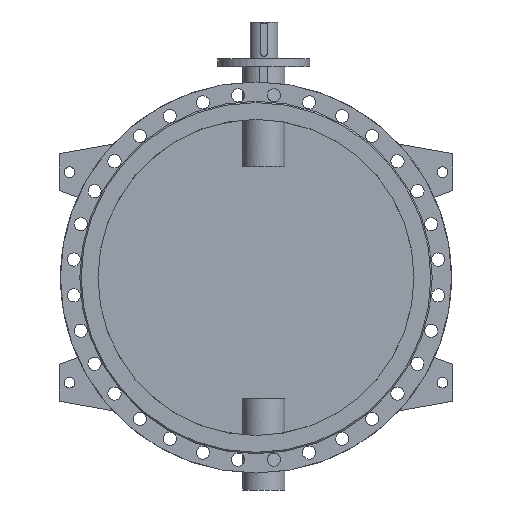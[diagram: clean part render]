
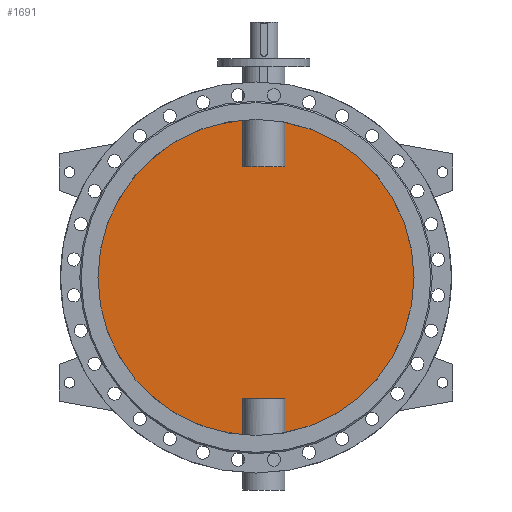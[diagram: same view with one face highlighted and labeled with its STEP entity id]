
A CAD part, front view. The second image highlights one B-rep face of the part: STEP entity #1691.
In plain terms, the highlighted planar face has unit normal (0, -1, 0).
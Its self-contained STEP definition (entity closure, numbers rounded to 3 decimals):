
#1691=ADVANCED_FACE('',(#3629),#3631,.F.);
#3629=FACE_BOUND('',#3630,.T.);
#3630=EDGE_LOOP('',(#4601,#4602,#4603,#4604,#4605,#4606,#4607,#4608));
#3631=PLANE('',#3632);
#3632=AXIS2_PLACEMENT_3D('',#3633,#3634,#3635);
#3633=CARTESIAN_POINT('',(0.,-5.,0.));
#3634=DIRECTION('',(0.,1.,0.));
#3635=DIRECTION('',(1.,0.,0.));
#4601=ORIENTED_EDGE('',*,*,#5087,.T.);
#4602=ORIENTED_EDGE('',*,*,#5103,.T.);
#4603=ORIENTED_EDGE('',*,*,#5104,.T.);
#4604=ORIENTED_EDGE('',*,*,#5105,.T.);
#4605=ORIENTED_EDGE('',*,*,#5089,.T.);
#4606=ORIENTED_EDGE('',*,*,#5106,.T.);
#4607=ORIENTED_EDGE('',*,*,#5107,.T.);
#4608=ORIENTED_EDGE('',*,*,#5108,.T.);
#5087=EDGE_CURVE('',#5887,#5888,#5889,.F.);
#5089=EDGE_CURVE('',#5892,#5890,#5893,.F.);
#5103=EDGE_CURVE('',#5888,#5919,#5920,.T.);
#5104=EDGE_CURVE('',#5919,#5921,#5922,.F.);
#5105=EDGE_CURVE('',#5921,#5892,#5923,.F.);
#5106=EDGE_CURVE('',#5890,#5924,#5925,.F.);
#5107=EDGE_CURVE('',#5924,#5926,#5927,.F.);
#5108=EDGE_CURVE('',#5926,#5887,#5928,.T.);
#5887=VERTEX_POINT('',#8562);
#5888=VERTEX_POINT('',#8563);
#5889=CIRCLE('',#8564,600.);
#5890=VERTEX_POINT('',#8568);
#5892=VERTEX_POINT('',#8662);
#5893=CIRCLE('',#8663,600.);
#5919=VERTEX_POINT('',#9049);
#5920=LINE('',#9050,#9051);
#5921=VERTEX_POINT('',#9053);
#5922=LINE('',#9054,#9055);
#5923=LINE('',#9057,#9058);
#5924=VERTEX_POINT('',#9060);
#5925=LINE('',#9061,#9062);
#5926=VERTEX_POINT('',#9064);
#5927=LINE('',#9065,#9066);
#5928=LINE('',#9068,#9069);
#8562=CARTESIAN_POINT('',(109.844,-5.,-589.86));
#8563=CARTESIAN_POINT('',(109.844,-5.,589.86));
#8564=AXIS2_PLACEMENT_3D('',#8565,#8566,#8567);
#8565=CARTESIAN_POINT('',(0.,-5.,0.));
#8566=DIRECTION('',(0.,1.,0.));
#8567=DIRECTION('',(0.183,0.,0.983));
#8568=CARTESIAN_POINT('',(-49.844,-5.,-597.926));
#8662=CARTESIAN_POINT('',(-49.844,-5.,597.926));
#8663=AXIS2_PLACEMENT_3D('',#8664,#8665,#8666);
#8664=CARTESIAN_POINT('',(0.,-5.,0.));
#8665=DIRECTION('',(0.,1.,0.));
#8666=DIRECTION('',(-0.083,0.,-0.997));
#9049=CARTESIAN_POINT('',(109.844,-5.,420.));
#9050=CARTESIAN_POINT('',(109.844,-5.,589.86));
#9051=VECTOR('',#9052,1.);
#9052=DIRECTION('',(0.,0.,-1.));
#9053=CARTESIAN_POINT('',(-49.844,-5.,420.));
#9054=CARTESIAN_POINT('',(-49.844,-5.,420.));
#9055=VECTOR('',#9056,1.);
#9056=DIRECTION('',(1.,0.,0.));
#9057=CARTESIAN_POINT('',(-49.844,-5.,597.926));
#9058=VECTOR('',#9059,1.);
#9059=DIRECTION('',(0.,0.,-1.));
#9060=CARTESIAN_POINT('',(-49.844,-5.,-460.));
#9061=CARTESIAN_POINT('',(-49.844,-5.,-460.));
#9062=VECTOR('',#9063,1.);
#9063=DIRECTION('',(0.,0.,-1.));
#9064=CARTESIAN_POINT('',(109.844,-5.,-460.));
#9065=CARTESIAN_POINT('',(109.844,-5.,-460.));
#9066=VECTOR('',#9067,1.);
#9067=DIRECTION('',(-1.,0.,0.));
#9068=CARTESIAN_POINT('',(109.844,-5.,-460.));
#9069=VECTOR('',#9070,1.);
#9070=DIRECTION('',(0.,0.,-1.));
